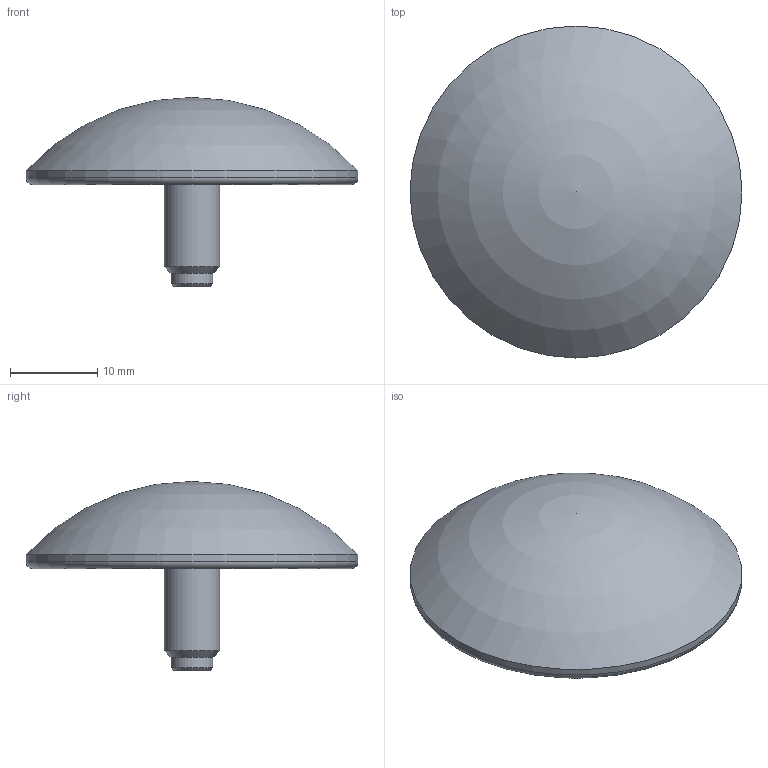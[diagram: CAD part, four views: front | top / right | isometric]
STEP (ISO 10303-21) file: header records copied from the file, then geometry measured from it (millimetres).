
FILE_DESCRIPTION(('Open CASCADE Model'),'2;1');
FILE_NAME('Open CASCADE Shape Model','2026-11-10T21:02:24',('Author'),( 'Open CASCADE'),'Open CASCADE STEP processor 7.9','Open CASCADE 7.9' ,'Unknown');
FILE_SCHEMA(('AUTOMOTIVE_DESIGN { 1 0 10303 214 1 1 1 1 }'));
Length unit declared in the file: millimetre
Products named in the file (1): Open CASCADE STEP translator 7.9 8
Bounding box: 38.1 x 38.1 x 21.7 mm (x, y, z)
Volume: 6418.2 mm3; surface area: 3003.6 mm2
Topology: 1 solids, 1 shells, 13 faces, 22 edges, 13 vertices
Faces by surface type: cylinder 5, plane 4, cone 2, torus 1, sphere 1
Full cylindrical faces by diameter (mm): 4.8 x1, 5.4 x1, 6.35 x1, 33 x1, 38.1 x1
Entity records: 588 total; most frequent: DIRECTION 105, CARTESIAN_POINT 90, ORIENTED_EDGE 42, PCURVE 42, DEFINITIONAL_REPRESENTATION 42, LINE 42, VECTOR 42, AXIS2_PLACEMENT_3D 28
